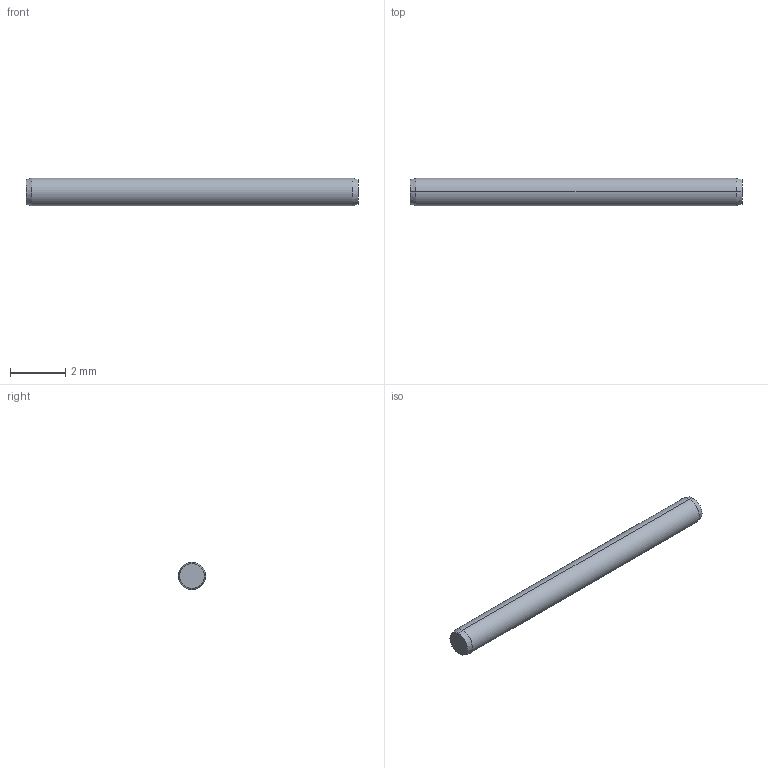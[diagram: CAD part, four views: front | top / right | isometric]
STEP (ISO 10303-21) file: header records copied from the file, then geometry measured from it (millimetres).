
FILE_DESCRIPTION (( 'STEP AP203' ), '1' );
FILE_NAME ('P1206.010-012.step', '2017-06-14T07:51:29', ( 'User' ), ( '' ), 'SwSTEP 2.0', 'SolidWorks 2009', '' );
FILE_SCHEMA (( 'CONFIG_CONTROL_DESIGN' ));
Length unit declared in the file: millimetre
Products named in the file (1): P1206.010-012
Bounding box: 12 x 1 x 1 mm (x, y, z)
Volume: 9.4 mm3; surface area: 38.9 mm2
Topology: 1 solids, 1 shells, 8 faces, 14 edges, 8 vertices
Faces by surface type: cone 4, cylinder 2, plane 2
Entity records: 271 total; most frequent: DIRECTION 40, CARTESIAN_POINT 31, ORIENTED_EDGE 28, AXIS2_PLACEMENT_3D 17, EDGE_CURVE 14, ADVANCED_FACE 8, VERTEX_POINT 8, EDGE_LOOP 8
